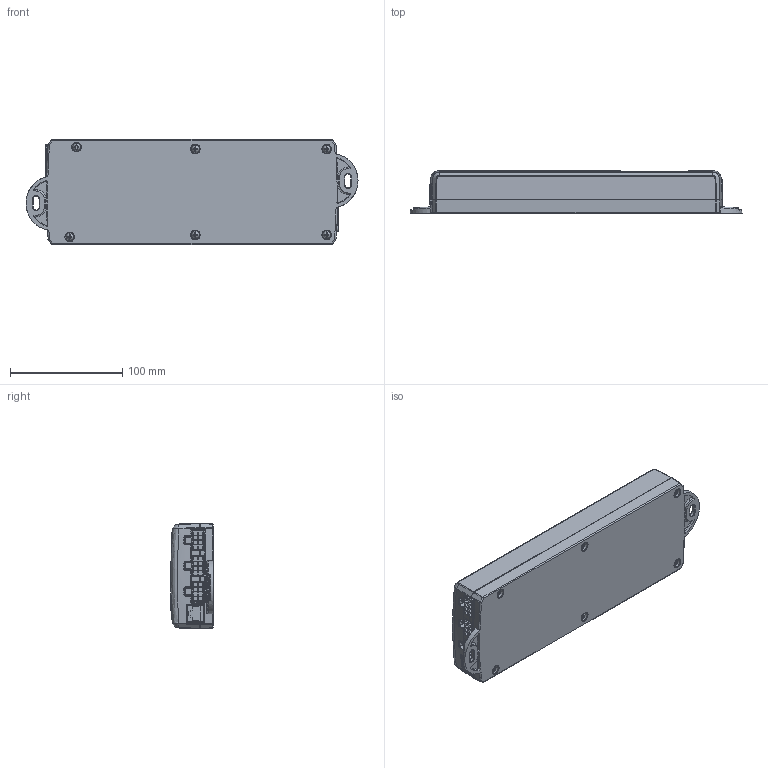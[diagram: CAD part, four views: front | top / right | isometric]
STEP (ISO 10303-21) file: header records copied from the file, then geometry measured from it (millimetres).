
FILE_DESCRIPTION (( 'STEP AP203' ), '1' );
FILE_NAME ('3D_TC16.STEP', '2017-06-07T06:11:18', ( '' ), ( '' ), 'SwSTEP 2.0', 'SolidWorks 2015', '' );
FILE_SCHEMA (( 'CONFIG_CONTROL_DESIGN' ));
Length unit declared in the file: millimetre
Products named in the file (1): 3D_TC16
Bounding box: 295.99 x 38.13 x 93.99 mm (x, y, z)
Volume: 892122 mm3; surface area: 90338.2 mm2
Topology: 1 solids, 1 shells, 1229 faces, 3222 edges, 2058 vertices
Faces by surface type: plane 598, bspline 331, cylinder 176, torus 75, cone 29, sphere 20
Entity records: 44990 total; most frequent: CARTESIAN_POINT 17143, ORIENTED_EDGE 6416, DIRECTION 4793, EDGE_CURVE 3208, VERTEX_POINT 2058, VECTOR 1633, LINE 1633, AXIS2_PLACEMENT_3D 1580
